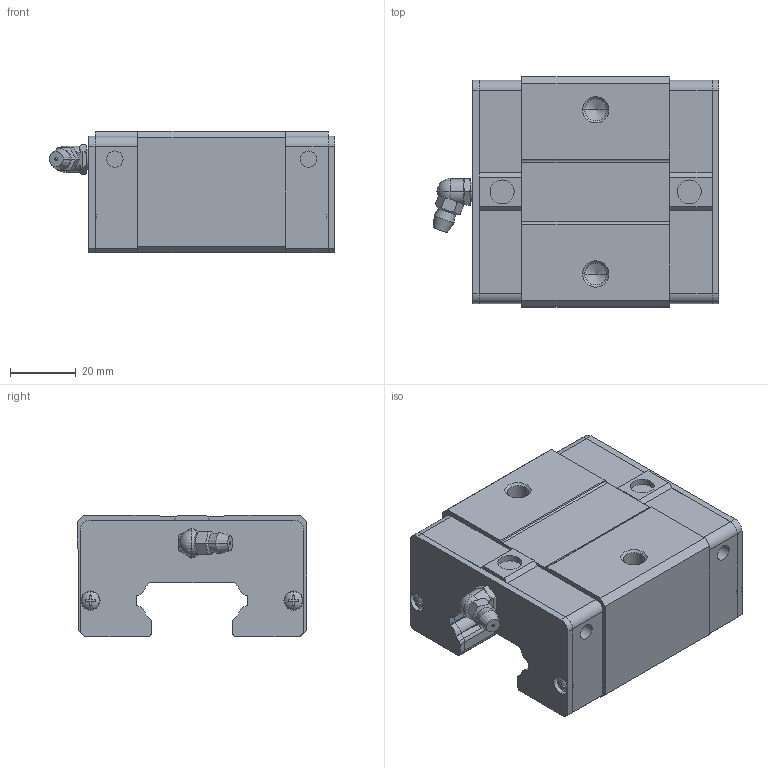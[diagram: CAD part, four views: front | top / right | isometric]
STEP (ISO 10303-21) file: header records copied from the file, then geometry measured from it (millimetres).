
FILE_DESCRIPTION(('starvars output'),'2;1');
FILE_NAME('cv20190610052317000013325.stp','05:23:18 2019/06/10',( 'Thomas Industrial Network Germany GmbH'),( 'Thomas Industrial Network Germany GmbH'),'unknown preprocess','ACIS' ,'unknown authorization');
FILE_SCHEMA(('CONFIG_CONTROL_DESIGN {UNKNOWN IMPLEMENTATION LEVEL}'));
Length unit declared in the file: millimetre
Products named in the file (10): PRODUCT_ID_1; PRODUCT_ID_2; PRODUCT_ID_3; PRODUCT_ID_4; PRODUCT_ID_5; PRODUCT_ID_6; PRODUCT_ID_7; PRODUCT_ID_8; PRODUCT_ID_9; PRODUCT_ID_10
Bounding box: 87 x 70 x 37 mm (x, y, z)
Volume: 151656.9 mm3; surface area: 40463.7 mm2
Topology: 10 solids, 10 shells, 423 faces, 1112 edges, 718 vertices
Faces by surface type: plane 224, cylinder 135, cone 52, sphere 12
Entity records: 12776 total; most frequent: ORIENTED_EDGE 2208, CARTESIAN_POINT 2100, DIRECTION 1881, EDGE_CURVE 1104, VERTEX_POINT 718, VECTOR 631, LINE 631, AXIS2_PLACEMENT_3D 625
